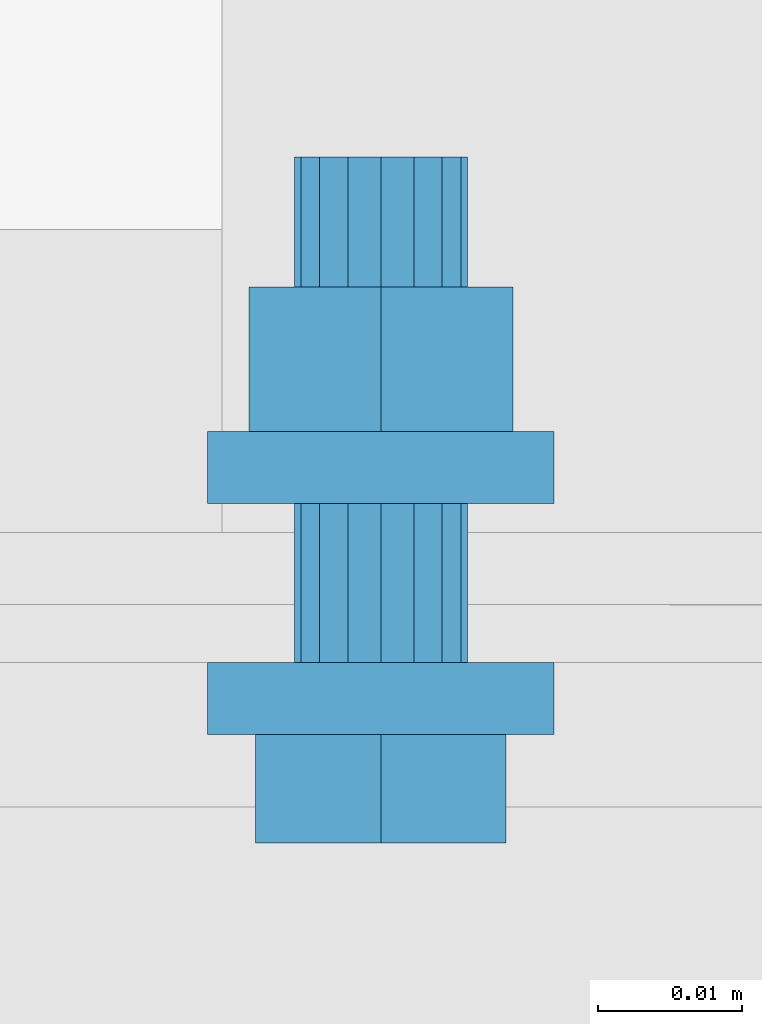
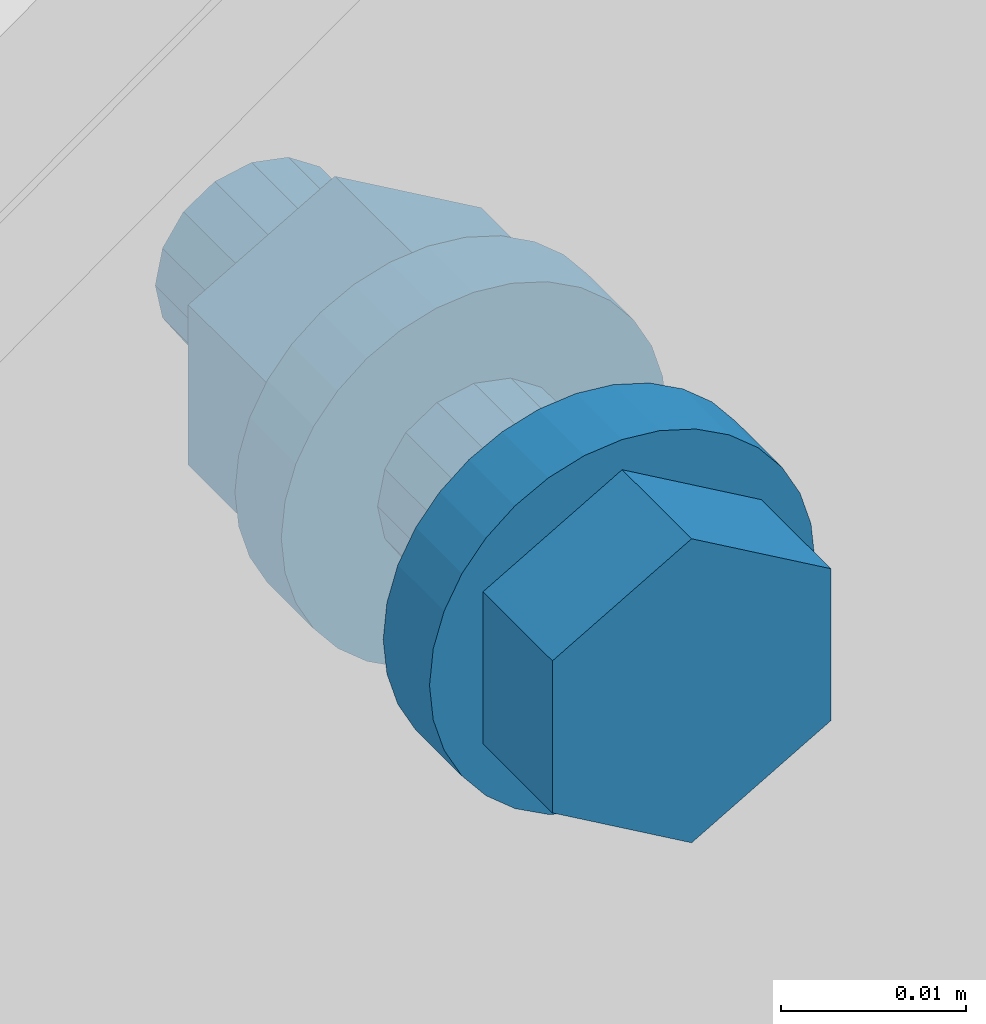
# One storey, part 39 of 116: 1 mechanical fastener.
"""IFC2X3 building model written with IfcOpenShell, lengths in millimetres."""

from ifc_helpers import new_model, entity, si_unit, converted_unit, origin_with_axes, place, context, project, spatial, faceted_brep, element, save


model = new_model("IFC2X3")

# Units and contexts
model_context = context("Model", 3, precision=1e-09, world=origin_with_axes())
ifc_project = project(units=[si_unit("LENGTHUNIT", "METRE", prefix="MILLI"), si_unit("AREAUNIT", "SQUARE_METRE"), si_unit("VOLUMEUNIT", "CUBIC_METRE"), converted_unit("PLANEANGLEUNIT", "DEGREE", entity("IfcPlaneAngleMeasure", 0.01745329), si_unit("PLANEANGLEUNIT", "RADIAN"), dimensions=[0, 0, 0, 0, 0, 0, 0])], contexts=[model_context])

# Site, building, storey
site_placement = place(None, origin_with_axes())
site = spatial("IfcSite", under=ifc_project, at=site_placement, Name="Site", CompositionType="ELEMENT")
building_placement = place(site_placement, origin_with_axes())
building = spatial("IfcBuilding", under=site, at=building_placement, Name="Struktur 1", CompositionType="ELEMENT")
storey_placement = place(building_placement, origin_with_axes())
storey = spatial("IfcBuildingStorey", under=building, at=storey_placement, Name="Default Storey", CompositionType="ELEMENT", Elevation=0.0)

# Mechanical fastener
mechanical_fastener_placement = place(None, origin_with_axes())
element("IfcMechanicalFastener", 1, at=mechanical_fastener_placement, inside=storey, ObjectType="-", NominalDiameter=12.0, NominalLength=40.0, context=model_context, shape_type="Brep", body=[
    faceted_brep([(59165.049134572, 9069.858883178, -533.0), (59165.049134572, 9072.358883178, -533.0), (59165.279711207, 9072.358883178, -535.341083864), (59165.279711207, 9069.858883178, -535.341083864), (59165.962580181, 9072.358883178, -537.592201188), (59165.962580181, 9069.858883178, -537.592201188), (59167.071499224, 9072.358883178, -539.666842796), (59167.071499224, 9069.858883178, -539.666842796), (59168.563853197, 9072.358883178, -541.485281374), (59168.563853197, 9069.858883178, -541.485281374), (59170.382291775, 9072.358883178, -542.977635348), (59170.382291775, 9069.858883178, -542.977635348), (59172.456933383, 9072.358883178, -544.08655439), (59172.456933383, 9069.858883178, -544.08655439), (59174.708050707, 9072.358883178, -544.769423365), (59174.708050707, 9069.858883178, -544.769423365), (59177.049134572, 9072.358883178, -545.0), (59177.049134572, 9069.858883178, -545.0), (59179.390218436, 9072.358883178, -544.769423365), (59179.390218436, 9069.858883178, -544.769423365), (59181.64133576, 9072.358883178, -544.08655439), (59181.64133576, 9069.858883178, -544.08655439), (59183.715977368, 9072.358883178, -542.977635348), (59183.715977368, 9069.858883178, -542.977635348), (59185.534415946, 9072.358883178, -541.485281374), (59185.534415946, 9069.858883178, -541.485281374), (59187.026769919, 9072.358883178, -539.666842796), (59187.026769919, 9069.858883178, -539.666842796), (59188.135688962, 9072.358883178, -537.592201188), (59188.135688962, 9069.858883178, -537.592201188), (59188.818557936, 9072.358883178, -535.341083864), (59188.818557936, 9069.858883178, -535.341083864), (59189.049134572, 9072.358883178, -533.0), (59189.049134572, 9069.858883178, -533.0), (59188.818557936, 9072.358883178, -530.658916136), (59188.818557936, 9069.858883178, -530.658916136), (59188.135688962, 9072.358883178, -528.407798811), (59188.135688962, 9069.858883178, -528.407798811), (59187.026769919, 9072.358883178, -526.333157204), (59187.026769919, 9069.858883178, -526.333157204), (59185.534415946, 9072.358883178, -524.514718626), (59185.534415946, 9069.858883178, -524.514718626), (59183.715977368, 9072.358883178, -523.022364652), (59183.715977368, 9069.858883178, -523.022364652), (59181.64133576, 9072.358883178, -521.91344561), (59181.64133576, 9069.858883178, -521.91344561), (59179.390218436, 9072.358883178, -521.230576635), (59179.390218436, 9069.858883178, -521.230576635), (59177.049134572, 9072.358883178, -521.0), (59177.049134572, 9069.858883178, -521.0), (59174.708050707, 9072.358883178, -521.230576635), (59174.708050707, 9069.858883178, -521.230576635), (59172.456933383, 9072.358883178, -521.91344561), (59172.456933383, 9069.858883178, -521.91344561), (59170.382291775, 9072.358883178, -523.022364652), (59170.382291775, 9069.858883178, -523.022364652), (59168.563853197, 9072.358883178, -524.514718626), (59168.563853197, 9069.858883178, -524.514718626), (59167.071499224, 9072.358883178, -526.333157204), (59167.071499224, 9069.858883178, -526.333157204), (59165.962580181, 9072.358883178, -528.407798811), (59165.962580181, 9069.858883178, -528.407798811), (59165.279711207, 9072.358883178, -530.658916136), (59165.279711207, 9069.858883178, -530.658916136)], [[[0, 1, 2, 3]], [[3, 2, 4, 5]], [[5, 4, 6, 7]], [[7, 6, 8, 9]], [[9, 8, 10, 11]], [[11, 10, 12, 13]], [[13, 12, 14, 15]], [[15, 14, 16, 17]], [[17, 16, 18, 19]], [[19, 18, 20, 21]], [[21, 20, 22, 23]], [[23, 22, 24, 25]], [[25, 24, 26, 27]], [[27, 26, 28, 29]], [[29, 28, 30, 31]], [[31, 30, 32, 33]], [[33, 32, 34, 35]], [[35, 34, 36, 37]], [[37, 36, 38, 39]], [[39, 38, 40, 41]], [[41, 40, 42, 43]], [[43, 42, 44, 45]], [[45, 44, 46, 47]], [[47, 46, 48, 49]], [[49, 48, 50, 51]], [[51, 50, 52, 53]], [[53, 52, 54, 55]], [[55, 54, 56, 57]], [[57, 56, 58, 59]], [[59, 58, 60, 61]], [[61, 60, 62, 63]], [[63, 62, 1, 0]], [[0, 3, 5, 7, 9, 11, 13, 15, 17, 19, 21, 23, 25, 27, 29, 31, 33, 35, 37, 39, 41, 43, 45, 47, 49, 51, 53, 55, 57, 59, 61, 63]], [[1, 62, 60, 58, 56, 54, 52, 50, 48, 46, 44, 42, 40, 38, 36, 34, 32, 30, 28, 26, 24, 22, 20, 18, 16, 14, 12, 10, 8, 6, 4, 2]]]),
    faceted_brep([(59165.049134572, 9067.358883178, -533.0), (59165.049134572, 9069.858883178, -533.0), (59165.279711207, 9069.858883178, -535.341083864), (59165.279711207, 9067.358883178, -535.341083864), (59165.962580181, 9069.858883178, -537.592201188), (59165.962580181, 9067.358883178, -537.592201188), (59167.071499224, 9069.858883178, -539.666842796), (59167.071499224, 9067.358883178, -539.666842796), (59168.563853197, 9069.858883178, -541.485281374), (59168.563853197, 9067.358883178, -541.485281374), (59170.382291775, 9069.858883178, -542.977635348), (59170.382291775, 9067.358883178, -542.977635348), (59172.456933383, 9069.858883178, -544.08655439), (59172.456933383, 9067.358883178, -544.08655439), (59174.708050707, 9069.858883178, -544.769423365), (59174.708050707, 9067.358883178, -544.769423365), (59177.049134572, 9069.858883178, -545.0), (59177.049134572, 9067.358883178, -545.0), (59179.390218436, 9069.858883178, -544.769423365), (59179.390218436, 9067.358883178, -544.769423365), (59181.64133576, 9069.858883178, -544.08655439), (59181.64133576, 9067.358883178, -544.08655439), (59183.715977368, 9069.858883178, -542.977635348), (59183.715977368, 9067.358883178, -542.977635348), (59185.534415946, 9069.858883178, -541.485281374), (59185.534415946, 9067.358883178, -541.485281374), (59187.026769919, 9069.858883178, -539.666842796), (59187.026769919, 9067.358883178, -539.666842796), (59188.135688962, 9069.858883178, -537.592201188), (59188.135688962, 9067.358883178, -537.592201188), (59188.818557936, 9069.858883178, -535.341083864), (59188.818557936, 9067.358883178, -535.341083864), (59189.049134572, 9069.858883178, -533.0), (59189.049134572, 9067.358883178, -533.0), (59188.818557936, 9069.858883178, -530.658916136), (59188.818557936, 9067.358883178, -530.658916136), (59188.135688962, 9069.858883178, -528.407798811), (59188.135688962, 9067.358883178, -528.407798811), (59187.026769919, 9069.858883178, -526.333157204), (59187.026769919, 9067.358883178, -526.333157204), (59185.534415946, 9069.858883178, -524.514718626), (59185.534415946, 9067.358883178, -524.514718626), (59183.715977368, 9069.858883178, -523.022364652), (59183.715977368, 9067.358883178, -523.022364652), (59181.64133576, 9069.858883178, -521.91344561), (59181.64133576, 9067.358883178, -521.91344561), (59179.390218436, 9069.858883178, -521.230576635), (59179.390218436, 9067.358883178, -521.230576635), (59177.049134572, 9069.858883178, -521.0), (59177.049134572, 9067.358883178, -521.0), (59174.708050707, 9069.858883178, -521.230576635), (59174.708050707, 9067.358883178, -521.230576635), (59172.456933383, 9069.858883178, -521.91344561), (59172.456933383, 9067.358883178, -521.91344561), (59170.382291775, 9069.858883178, -523.022364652), (59170.382291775, 9067.358883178, -523.022364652), (59168.563853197, 9069.858883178, -524.514718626), (59168.563853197, 9067.358883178, -524.514718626), (59167.071499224, 9069.858883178, -526.333157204), (59167.071499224, 9067.358883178, -526.333157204), (59165.962580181, 9069.858883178, -528.407798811), (59165.962580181, 9067.358883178, -528.407798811), (59165.279711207, 9069.858883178, -530.658916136), (59165.279711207, 9067.358883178, -530.658916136)], [[[0, 1, 2, 3]], [[3, 2, 4, 5]], [[5, 4, 6, 7]], [[7, 6, 8, 9]], [[9, 8, 10, 11]], [[11, 10, 12, 13]], [[13, 12, 14, 15]], [[15, 14, 16, 17]], [[17, 16, 18, 19]], [[19, 18, 20, 21]], [[21, 20, 22, 23]], [[23, 22, 24, 25]], [[25, 24, 26, 27]], [[27, 26, 28, 29]], [[29, 28, 30, 31]], [[31, 30, 32, 33]], [[33, 32, 34, 35]], [[35, 34, 36, 37]], [[37, 36, 38, 39]], [[39, 38, 40, 41]], [[41, 40, 42, 43]], [[43, 42, 44, 45]], [[45, 44, 46, 47]], [[47, 46, 48, 49]], [[49, 48, 50, 51]], [[51, 50, 52, 53]], [[53, 52, 54, 55]], [[55, 54, 56, 57]], [[57, 56, 58, 59]], [[59, 58, 60, 61]], [[61, 60, 62, 63]], [[63, 62, 1, 0]], [[0, 3, 5, 7, 9, 11, 13, 15, 17, 19, 21, 23, 25, 27, 29, 31, 33, 35, 37, 39, 41, 43, 45, 47, 49, 51, 53, 55, 57, 59, 61, 63]], [[1, 62, 60, 58, 56, 54, 52, 50, 48, 46, 44, 42, 40, 38, 36, 34, 32, 30, 28, 26, 24, 22, 20, 18, 16, 14, 12, 10, 8, 6, 4, 2]]]),
    faceted_brep([(59185.722378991, 9067.358883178, -538.0075), (59185.722378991, 9059.858883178, -538.0075), (59177.049134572, 9059.858883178, -543.015), (59177.049134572, 9067.358883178, -543.015), (59168.375890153, 9059.858883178, -538.0075), (59168.375890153, 9067.358883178, -538.0075), (59168.375890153, 9059.858883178, -527.9925), (59168.375890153, 9067.358883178, -527.9925), (59177.049134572, 9059.858883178, -522.985), (59177.049134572, 9067.358883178, -522.985), (59185.722378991, 9059.858883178, -527.9925), (59185.722378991, 9067.358883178, -527.9925)], [[[0, 1, 2, 3]], [[3, 2, 4, 5]], [[5, 4, 6, 7]], [[7, 6, 8, 9]], [[9, 8, 10, 11]], [[11, 10, 1, 0]], [[4, 2, 1, 10, 8, 6]], [[0, 3, 5, 7, 9, 11]]]),
    faceted_brep([(59171.049134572, 9072.358883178, -533.0), (59171.049134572, 9083.358883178, -533.0), (59171.505857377, 9083.358883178, -535.296100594), (59171.505857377, 9072.358883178, -535.296100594), (59172.806493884, 9083.358883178, -537.242640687), (59172.806493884, 9072.358883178, -537.242640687), (59174.753033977, 9083.358883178, -538.543277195), (59174.753033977, 9072.358883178, -538.543277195), (59177.049134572, 9083.358883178, -539.0), (59177.049134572, 9072.358883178, -539.0), (59179.345235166, 9083.358883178, -538.543277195), (59179.345235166, 9072.358883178, -538.543277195), (59181.291775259, 9083.358883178, -537.242640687), (59181.291775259, 9072.358883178, -537.242640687), (59182.592411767, 9083.358883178, -535.296100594), (59182.592411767, 9072.358883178, -535.296100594), (59183.049134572, 9083.358883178, -533.0), (59183.049134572, 9072.358883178, -533.0), (59182.592411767, 9083.358883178, -530.703899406), (59182.592411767, 9072.358883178, -530.703899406), (59181.291775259, 9083.358883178, -528.757359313), (59181.291775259, 9072.358883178, -528.757359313), (59179.345235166, 9083.358883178, -527.456722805), (59179.345235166, 9072.358883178, -527.456722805), (59177.049134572, 9083.358883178, -527.0), (59177.049134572, 9072.358883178, -527.0), (59174.753033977, 9083.358883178, -527.456722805), (59174.753033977, 9072.358883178, -527.456722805), (59172.806493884, 9083.358883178, -528.757359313), (59172.806493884, 9072.358883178, -528.757359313), (59171.505857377, 9083.358883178, -530.703899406), (59171.505857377, 9072.358883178, -530.703899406)], [[[0, 1, 2, 3]], [[3, 2, 4, 5]], [[5, 4, 6, 7]], [[7, 6, 8, 9]], [[9, 8, 10, 11]], [[11, 10, 12, 13]], [[13, 12, 14, 15]], [[15, 14, 16, 17]], [[17, 16, 18, 19]], [[19, 18, 20, 21]], [[21, 20, 22, 23]], [[23, 22, 24, 25]], [[25, 24, 26, 27]], [[27, 26, 28, 29]], [[29, 28, 30, 31]], [[31, 30, 1, 0]], [[0, 3, 5, 7, 9, 11, 13, 15, 17, 19, 21, 23, 25, 27, 29, 31]], [[1, 30, 28, 26, 24, 22, 20, 18, 16, 14, 12, 10, 8, 6, 4, 2]]]),
    faceted_brep([(59165.049134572, 9083.358883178, -533.0), (59165.049134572, 9085.858883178, -533.0), (59165.279711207, 9085.858883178, -535.341083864), (59165.279711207, 9083.358883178, -535.341083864), (59165.962580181, 9085.858883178, -537.592201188), (59165.962580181, 9083.358883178, -537.592201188), (59167.071499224, 9085.858883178, -539.666842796), (59167.071499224, 9083.358883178, -539.666842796), (59168.563853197, 9085.858883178, -541.485281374), (59168.563853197, 9083.358883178, -541.485281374), (59170.382291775, 9085.858883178, -542.977635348), (59170.382291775, 9083.358883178, -542.977635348), (59172.456933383, 9085.858883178, -544.08655439), (59172.456933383, 9083.358883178, -544.08655439), (59174.708050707, 9085.858883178, -544.769423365), (59174.708050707, 9083.358883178, -544.769423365), (59177.049134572, 9085.858883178, -545.0), (59177.049134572, 9083.358883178, -545.0), (59179.390218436, 9085.858883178, -544.769423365), (59179.390218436, 9083.358883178, -544.769423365), (59181.64133576, 9085.858883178, -544.08655439), (59181.64133576, 9083.358883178, -544.08655439), (59183.715977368, 9085.858883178, -542.977635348), (59183.715977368, 9083.358883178, -542.977635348), (59185.534415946, 9085.858883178, -541.485281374), (59185.534415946, 9083.358883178, -541.485281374), (59187.026769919, 9085.858883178, -539.666842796), (59187.026769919, 9083.358883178, -539.666842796), (59188.135688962, 9085.858883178, -537.592201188), (59188.135688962, 9083.358883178, -537.592201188), (59188.818557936, 9085.858883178, -535.341083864), (59188.818557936, 9083.358883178, -535.341083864), (59189.049134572, 9085.858883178, -533.0), (59189.049134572, 9083.358883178, -533.0), (59188.818557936, 9085.858883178, -530.658916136), (59188.818557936, 9083.358883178, -530.658916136), (59188.135688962, 9085.858883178, -528.407798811), (59188.135688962, 9083.358883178, -528.407798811), (59187.026769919, 9085.858883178, -526.333157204), (59187.026769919, 9083.358883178, -526.333157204), (59185.534415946, 9085.858883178, -524.514718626), (59185.534415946, 9083.358883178, -524.514718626), (59183.715977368, 9085.858883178, -523.022364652), (59183.715977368, 9083.358883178, -523.022364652), (59181.64133576, 9085.858883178, -521.91344561), (59181.64133576, 9083.358883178, -521.91344561), (59179.390218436, 9085.858883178, -521.230576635), (59179.390218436, 9083.358883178, -521.230576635), (59177.049134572, 9085.858883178, -521.0), (59177.049134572, 9083.358883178, -521.0), (59174.708050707, 9085.858883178, -521.230576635), (59174.708050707, 9083.358883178, -521.230576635), (59172.456933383, 9085.858883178, -521.91344561), (59172.456933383, 9083.358883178, -521.91344561), (59170.382291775, 9085.858883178, -523.022364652), (59170.382291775, 9083.358883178, -523.022364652), (59168.563853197, 9085.858883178, -524.514718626), (59168.563853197, 9083.358883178, -524.514718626), (59167.071499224, 9085.858883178, -526.333157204), (59167.071499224, 9083.358883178, -526.333157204), (59165.962580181, 9085.858883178, -528.407798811), (59165.962580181, 9083.358883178, -528.407798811), (59165.279711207, 9085.858883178, -530.658916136), (59165.279711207, 9083.358883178, -530.658916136)], [[[0, 1, 2, 3]], [[3, 2, 4, 5]], [[5, 4, 6, 7]], [[7, 6, 8, 9]], [[9, 8, 10, 11]], [[11, 10, 12, 13]], [[13, 12, 14, 15]], [[15, 14, 16, 17]], [[17, 16, 18, 19]], [[19, 18, 20, 21]], [[21, 20, 22, 23]], [[23, 22, 24, 25]], [[25, 24, 26, 27]], [[27, 26, 28, 29]], [[29, 28, 30, 31]], [[31, 30, 32, 33]], [[33, 32, 34, 35]], [[35, 34, 36, 37]], [[37, 36, 38, 39]], [[39, 38, 40, 41]], [[41, 40, 42, 43]], [[43, 42, 44, 45]], [[45, 44, 46, 47]], [[47, 46, 48, 49]], [[49, 48, 50, 51]], [[51, 50, 52, 53]], [[53, 52, 54, 55]], [[55, 54, 56, 57]], [[57, 56, 58, 59]], [[59, 58, 60, 61]], [[61, 60, 62, 63]], [[63, 62, 1, 0]], [[0, 3, 5, 7, 9, 11, 13, 15, 17, 19, 21, 23, 25, 27, 29, 31, 33, 35, 37, 39, 41, 43, 45, 47, 49, 51, 53, 55, 57, 59, 61, 63]], [[1, 62, 60, 58, 56, 54, 52, 50, 48, 46, 44, 42, 40, 38, 36, 34, 32, 30, 28, 26, 24, 22, 20, 18, 16, 14, 12, 10, 8, 6, 4, 2]]]),
    faceted_brep([(59165.049134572, 9085.858883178, -533.0), (59165.049134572, 9088.358883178, -533.0), (59165.279711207, 9088.358883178, -535.341083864), (59165.279711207, 9085.858883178, -535.341083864), (59165.962580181, 9088.358883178, -537.592201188), (59165.962580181, 9085.858883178, -537.592201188), (59167.071499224, 9088.358883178, -539.666842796), (59167.071499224, 9085.858883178, -539.666842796), (59168.563853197, 9088.358883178, -541.485281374), (59168.563853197, 9085.858883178, -541.485281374), (59170.382291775, 9088.358883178, -542.977635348), (59170.382291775, 9085.858883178, -542.977635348), (59172.456933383, 9088.358883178, -544.08655439), (59172.456933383, 9085.858883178, -544.08655439), (59174.708050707, 9088.358883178, -544.769423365), (59174.708050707, 9085.858883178, -544.769423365), (59177.049134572, 9088.358883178, -545.0), (59177.049134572, 9085.858883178, -545.0), (59179.390218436, 9088.358883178, -544.769423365), (59179.390218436, 9085.858883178, -544.769423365), (59181.64133576, 9088.358883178, -544.08655439), (59181.64133576, 9085.858883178, -544.08655439), (59183.715977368, 9088.358883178, -542.977635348), (59183.715977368, 9085.858883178, -542.977635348), (59185.534415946, 9088.358883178, -541.485281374), (59185.534415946, 9085.858883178, -541.485281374), (59187.026769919, 9088.358883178, -539.666842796), (59187.026769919, 9085.858883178, -539.666842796), (59188.135688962, 9088.358883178, -537.592201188), (59188.135688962, 9085.858883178, -537.592201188), (59188.818557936, 9088.358883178, -535.341083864), (59188.818557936, 9085.858883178, -535.341083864), (59189.049134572, 9088.358883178, -533.0), (59189.049134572, 9085.858883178, -533.0), (59188.818557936, 9088.358883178, -530.658916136), (59188.818557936, 9085.858883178, -530.658916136), (59188.135688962, 9088.358883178, -528.407798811), (59188.135688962, 9085.858883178, -528.407798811), (59187.026769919, 9088.358883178, -526.333157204), (59187.026769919, 9085.858883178, -526.333157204), (59185.534415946, 9088.358883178, -524.514718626), (59185.534415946, 9085.858883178, -524.514718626), (59183.715977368, 9088.358883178, -523.022364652), (59183.715977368, 9085.858883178, -523.022364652), (59181.64133576, 9088.358883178, -521.91344561), (59181.64133576, 9085.858883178, -521.91344561), (59179.390218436, 9088.358883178, -521.230576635), (59179.390218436, 9085.858883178, -521.230576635), (59177.049134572, 9088.358883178, -521.0), (59177.049134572, 9085.858883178, -521.0), (59174.708050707, 9088.358883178, -521.230576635), (59174.708050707, 9085.858883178, -521.230576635), (59172.456933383, 9088.358883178, -521.91344561), (59172.456933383, 9085.858883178, -521.91344561), (59170.382291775, 9088.358883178, -523.022364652), (59170.382291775, 9085.858883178, -523.022364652), (59168.563853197, 9088.358883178, -524.514718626), (59168.563853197, 9085.858883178, -524.514718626), (59167.071499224, 9088.358883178, -526.333157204), (59167.071499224, 9085.858883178, -526.333157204), (59165.962580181, 9088.358883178, -528.407798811), (59165.962580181, 9085.858883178, -528.407798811), (59165.279711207, 9088.358883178, -530.658916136), (59165.279711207, 9085.858883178, -530.658916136)], [[[0, 1, 2, 3]], [[3, 2, 4, 5]], [[5, 4, 6, 7]], [[7, 6, 8, 9]], [[9, 8, 10, 11]], [[11, 10, 12, 13]], [[13, 12, 14, 15]], [[15, 14, 16, 17]], [[17, 16, 18, 19]], [[19, 18, 20, 21]], [[21, 20, 22, 23]], [[23, 22, 24, 25]], [[25, 24, 26, 27]], [[27, 26, 28, 29]], [[29, 28, 30, 31]], [[31, 30, 32, 33]], [[33, 32, 34, 35]], [[35, 34, 36, 37]], [[37, 36, 38, 39]], [[39, 38, 40, 41]], [[41, 40, 42, 43]], [[43, 42, 44, 45]], [[45, 44, 46, 47]], [[47, 46, 48, 49]], [[49, 48, 50, 51]], [[51, 50, 52, 53]], [[53, 52, 54, 55]], [[55, 54, 56, 57]], [[57, 56, 58, 59]], [[59, 58, 60, 61]], [[61, 60, 62, 63]], [[63, 62, 1, 0]], [[0, 3, 5, 7, 9, 11, 13, 15, 17, 19, 21, 23, 25, 27, 29, 31, 33, 35, 37, 39, 41, 43, 45, 47, 49, 51, 53, 55, 57, 59, 61, 63]], [[1, 62, 60, 58, 56, 54, 52, 50, 48, 46, 44, 42, 40, 38, 36, 34, 32, 30, 28, 26, 24, 22, 20, 18, 16, 14, 12, 10, 8, 6, 4, 2]]]),
    faceted_brep([(59186.185702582, 9098.358883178, -538.275), (59186.185702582, 9088.358883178, -538.275), (59177.049134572, 9088.358883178, -543.55), (59177.049134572, 9098.358883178, -543.55), (59167.912566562, 9088.358883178, -538.275), (59167.912566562, 9098.358883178, -538.275), (59167.912566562, 9088.358883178, -527.725), (59167.912566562, 9098.358883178, -527.725), (59177.049134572, 9088.358883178, -522.45), (59177.049134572, 9098.358883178, -522.45), (59186.185702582, 9088.358883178, -527.725), (59186.185702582, 9098.358883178, -527.725)], [[[0, 1, 2, 3]], [[3, 2, 4, 5]], [[5, 4, 6, 7]], [[7, 6, 8, 9]], [[9, 8, 10, 11]], [[11, 10, 1, 0]], [[4, 2, 1, 10, 8, 6]], [[0, 3, 5, 7, 9, 11]]]),
    faceted_brep([(59171.049134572, 9098.358883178, -533.0), (59171.049134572, 9107.358883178, -533.0), (59171.505857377, 9107.358883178, -535.296100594), (59171.505857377, 9098.358883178, -535.296100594), (59172.806493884, 9107.358883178, -537.242640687), (59172.806493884, 9098.358883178, -537.242640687), (59174.753033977, 9107.358883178, -538.543277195), (59174.753033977, 9098.358883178, -538.543277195), (59177.049134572, 9107.358883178, -539.0), (59177.049134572, 9098.358883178, -539.0), (59179.345235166, 9107.358883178, -538.543277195), (59179.345235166, 9098.358883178, -538.543277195), (59181.291775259, 9107.358883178, -537.242640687), (59181.291775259, 9098.358883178, -537.242640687), (59182.592411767, 9107.358883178, -535.296100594), (59182.592411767, 9098.358883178, -535.296100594), (59183.049134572, 9107.358883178, -533.0), (59183.049134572, 9098.358883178, -533.0), (59182.592411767, 9107.358883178, -530.703899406), (59182.592411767, 9098.358883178, -530.703899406), (59181.291775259, 9107.358883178, -528.757359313), (59181.291775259, 9098.358883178, -528.757359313), (59179.345235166, 9107.358883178, -527.456722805), (59179.345235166, 9098.358883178, -527.456722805), (59177.049134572, 9107.358883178, -527.0), (59177.049134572, 9098.358883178, -527.0), (59174.753033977, 9107.358883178, -527.456722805), (59174.753033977, 9098.358883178, -527.456722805), (59172.806493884, 9107.358883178, -528.757359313), (59172.806493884, 9098.358883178, -528.757359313), (59171.505857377, 9107.358883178, -530.703899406), (59171.505857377, 9098.358883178, -530.703899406)], [[[0, 1, 2, 3]], [[3, 2, 4, 5]], [[5, 4, 6, 7]], [[7, 6, 8, 9]], [[9, 8, 10, 11]], [[11, 10, 12, 13]], [[13, 12, 14, 15]], [[15, 14, 16, 17]], [[17, 16, 18, 19]], [[19, 18, 20, 21]], [[21, 20, 22, 23]], [[23, 22, 24, 25]], [[25, 24, 26, 27]], [[27, 26, 28, 29]], [[29, 28, 30, 31]], [[31, 30, 1, 0]], [[0, 3, 5, 7, 9, 11, 13, 15, 17, 19, 21, 23, 25, 27, 29, 31]], [[1, 30, 28, 26, 24, 22, 20, 18, 16, 14, 12, 10, 8, 6, 4, 2]]]),
])

save(model, "model.ifc")
